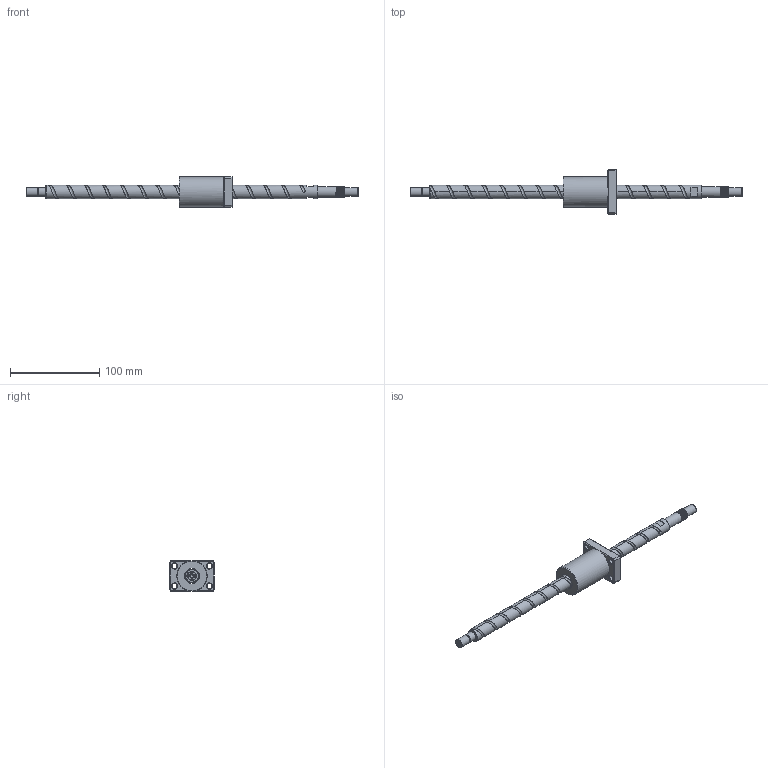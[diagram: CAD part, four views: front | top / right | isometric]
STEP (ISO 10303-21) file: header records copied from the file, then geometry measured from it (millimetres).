
FILE_DESCRIPTION (( 'STEP AP203' ), '1' );
FILE_NAME ('XSVR01520A1DGC5-371-P1.step', '2024-06-03T05:36:56', ( '' ), ( '' ), 'SwSTEP 2.0', 'SolidWorks 2022', '' );
FILE_SCHEMA (( 'CONFIG_CONTROL_DESIGN' ));
Length unit declared in the file: millimetre
Products named in the file (1): XSVR01520A1DGC5-371-P1
Bounding box: 371 x 50 x 34 mm (x, y, z)
Volume: 103656.6 mm3; surface area: 31992.1 mm2
Topology: 2 solids, 2 shells, 145 faces, 389 edges, 254 vertices
Faces by surface type: cylinder 68, plane 43, cone 15, bspline 10, torus 9
Full cylindrical faces by diameter (mm): 4 x1, 4.2 x15, 5 x6, 5.5 x4, 9.5 x4, 9.6 x1, 10 x3, 12 x9, 15 x15, 17 x1, 34 x1
Entity records: 13650 total; most frequent: CARTESIAN_POINT 11522, ORIENTED_EDGE 410, DIRECTION 391, EDGE_CURVE 205, AXIS2_PLACEMENT_3D 168, EDGE_LOOP 153, VERTEX_POINT 150, FACE_OUTER_BOUND 120
